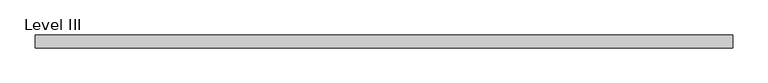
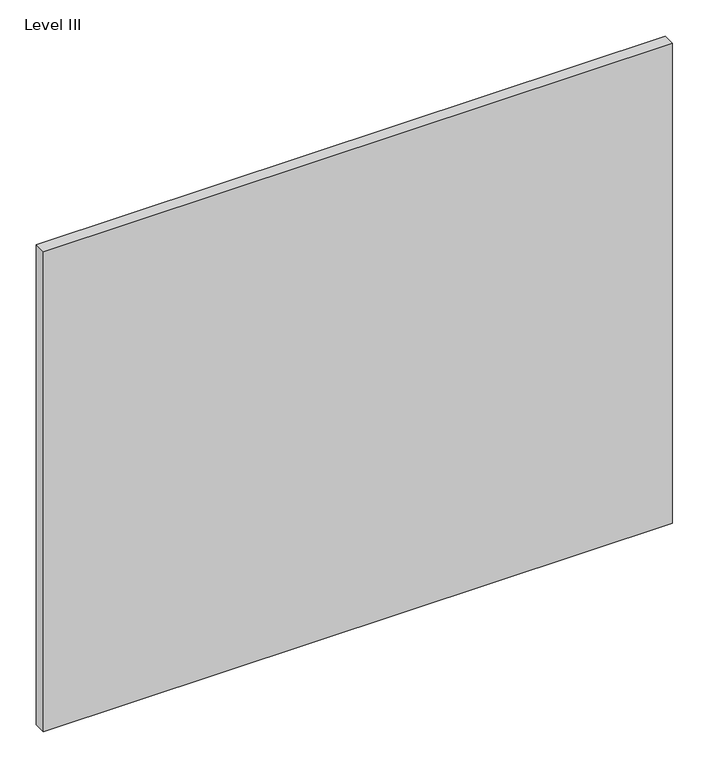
"""IFC4 building model written with IfcOpenShell, lengths in millimetres: proxy geometry, Panel-Fascia-Teknion-Altos-Standard : Level III."""

from ifc_helpers import new_model, si_unit, frame, origin, place, context, project, spatial, polyline, outline, extrude, source, transform, mapped, element, save


def level_iii_4beb9e8a(model_context):
    return source(origin(), model_context, "Body", "SweptSolid", [
        extrude(outline(polyline([(498.4198344, -9.525), (-498.4198344, -9.525), (-498.4198344, 9.525), (498.4198344, 9.525), (498.4198344, -9.525)])), frame((0.0, 0.0, 3.175), z_axis=(0.0, 0.0, 1.0), x_axis=(1.0, 0.0, 0.0)), (0.0, 0.0, 1.0), 804.418),
    ])


if __name__ == "__main__":
    model = new_model("IFC4")
    model_context = context("Model", 3, world=origin())
    ifc_project = project(units=[si_unit("LENGTHUNIT", "METRE", prefix="MILLI")], contexts=[model_context])
    site = spatial("IfcSite", under=ifc_project)
    building = spatial("IfcBuilding", under=site)
    placement = place(None, origin())
    level_iii_shape = level_iii_4beb9e8a(model_context)
    element("IfcBuildingElementProxy", 1, Name="Panel-Fascia-Teknion-Altos-Standard : Level III", ObjectType="Panel-Fascia-Teknion-Altos-Standard : Level III", at=placement, inside=building, context=model_context, shape_type="MappedRepresentation", body=[
        mapped(level_iii_shape, transform((0.0, 0.0, 0.0), x_axis=(1.0, 0.0, 0.0), y_axis=(0.0, 1.0, 0.0), z_axis=(0.0, 0.0, 1.0))),
    ])
    save(model, "model.ifc")
